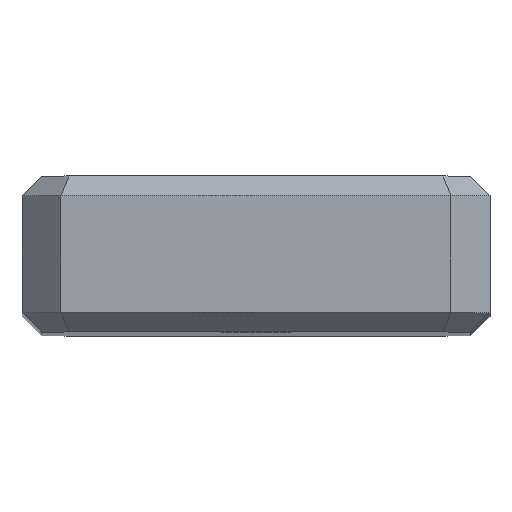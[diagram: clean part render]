
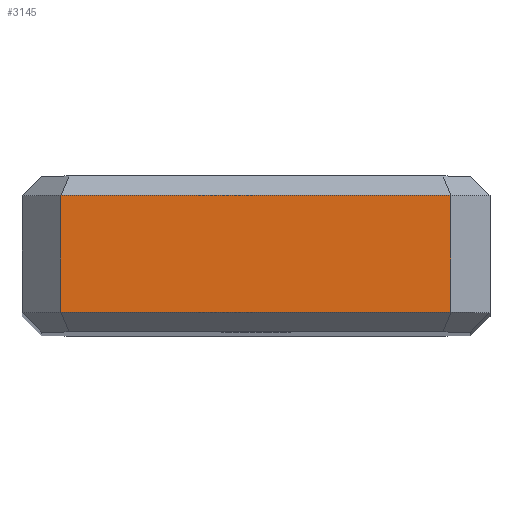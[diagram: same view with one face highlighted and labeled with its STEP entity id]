
A CAD part, top view. The second image highlights one B-rep face of the part: STEP entity #3145.
In plain terms, the highlighted planar face has unit normal (0, 0, 1).
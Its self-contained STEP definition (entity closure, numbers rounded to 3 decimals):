
#1012=DIRECTION('',(-1.,0.,0.));
#1013=VECTOR('',#1012,20.);
#1014=CARTESIAN_POINT('',(10.,-7.,60.));
#1015=LINE('',#1014,#1013);
#1019=DIRECTION('',(0.,1.,0.));
#1020=VECTOR('',#1019,6.);
#1021=CARTESIAN_POINT('',(-10.,-7.,60.));
#1022=LINE('',#1021,#1020);
#1026=DIRECTION('',(1.,0.,0.));
#1027=VECTOR('',#1026,20.);
#1028=CARTESIAN_POINT('',(-10.,-1.,60.));
#1029=LINE('',#1028,#1027);
#1033=DIRECTION('',(0.,1.,0.));
#1034=VECTOR('',#1033,6.);
#1035=CARTESIAN_POINT('',(10.,-7.,60.));
#1036=LINE('',#1035,#1034);
#2239=CARTESIAN_POINT('',(-10.,-7.,60.));
#2240=VERTEX_POINT('',#2239);
#2243=CARTESIAN_POINT('',(10.,-7.,60.));
#2244=VERTEX_POINT('',#2243);
#2259=CARTESIAN_POINT('',(10.,-1.,60.));
#2261=VERTEX_POINT('',#2259);
#2285=CARTESIAN_POINT('',(-10.,-1.,60.));
#2286=VERTEX_POINT('',#2285);
#3132=CARTESIAN_POINT('',(12.,0.,60.));
#3133=DIRECTION('',(0.,0.,1.));
#3134=DIRECTION('',(-1.,0.,0.));
#3135=AXIS2_PLACEMENT_3D('',#3132,#3133,#3134);
#3136=PLANE('',#3135);
#3138=ORIENTED_EDGE('',*,*,#3137,.T.);
#3139=ORIENTED_EDGE('',*,*,#3101,.T.);
#3140=ORIENTED_EDGE('',*,*,#3124,.T.);
#3142=ORIENTED_EDGE('',*,*,#3141,.F.);
#3143=EDGE_LOOP('',(#3138,#3139,#3140,#3142));
#3144=FACE_OUTER_BOUND('',#3143,.F.);
#3101=EDGE_CURVE('',#2240,#2286,#1022,.T.);
#3124=EDGE_CURVE('',#2286,#2261,#1029,.T.);
#3137=EDGE_CURVE('',#2244,#2240,#1015,.T.);
#3141=EDGE_CURVE('',#2244,#2261,#1036,.T.);
#3145=ADVANCED_FACE('',(#3144),#3136,.T.);
